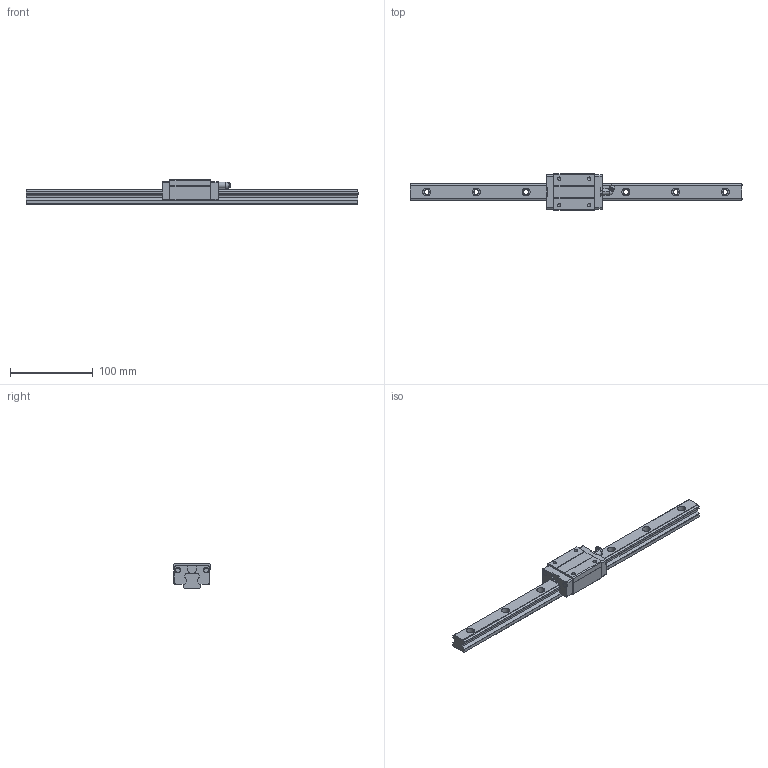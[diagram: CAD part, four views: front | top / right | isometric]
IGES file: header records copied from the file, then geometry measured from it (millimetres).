
Global section: file name: No Iges File Name specified; native system: AutoDesk Inventor R11.0; preprocessor: AutoDesk Inventor Iges Exporter R11.0; author: No Author specified; organization: No Organization specified; date: 20121213.103439; units: millimetre
Bounding box: 400 x 44 x 30 mm (x, y, z)
Surface area: 48164.2 mm2 (no closed solid volume)
Topology: 0 solids, 0 shells, 199 faces, 1302 edges, 1284 vertices
Faces by surface type: bspline 199
